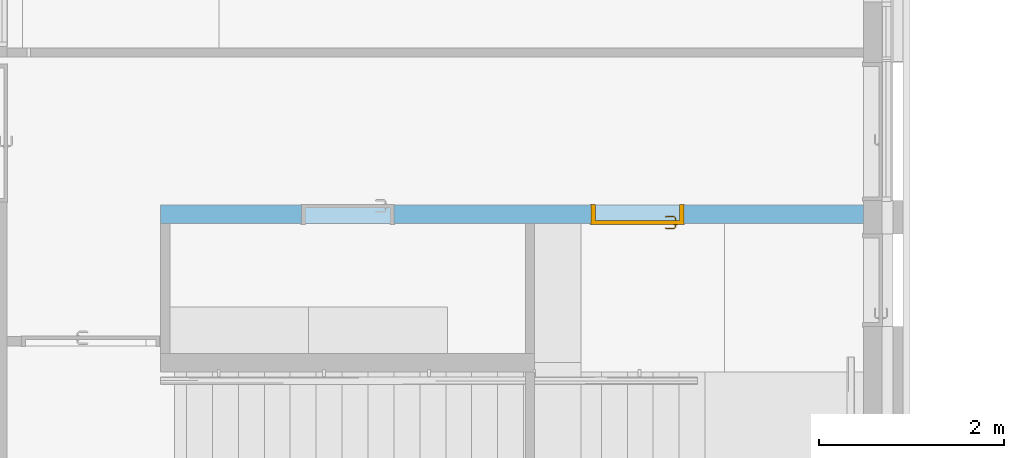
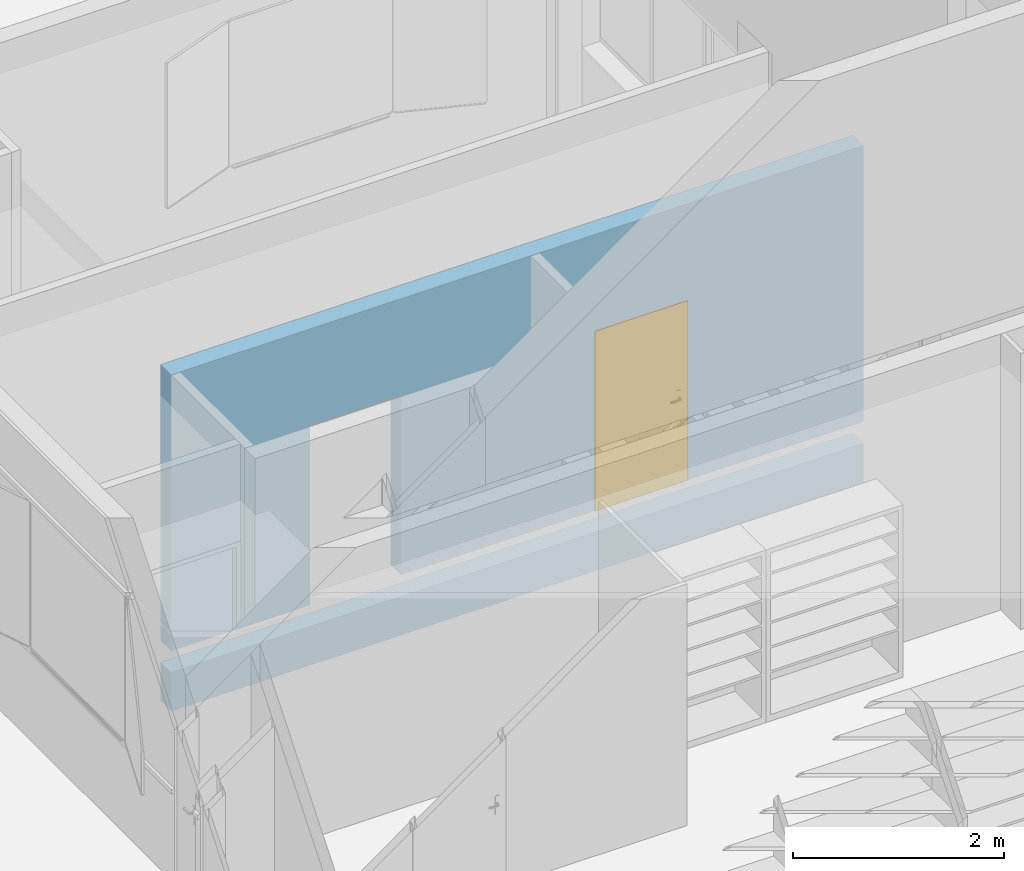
# One storey, part 78 of 137: 1 door, 2 openings, plus 1 element that does not belong to this part.
"""IFC2X3 building model written with IfcOpenShell, lengths in centimetres."""

from ifc_helpers import new_model, entity, si_unit, converted_unit, derived_unit, direction, frame, frame_2d, origin, place, context, subcontext, project, spatial, rectangle, extrude, faceted_brep, source, transform, mapped, material, material_list, layer, layer_set, type_object, type_shapes, element, fill, save


model = new_model("IFC2X3")

# Units and contexts
model_context = context("Model", 3, precision=0.001, world=origin(), true_north=direction((6.12303176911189e-17, 1.0)))
body_context = subcontext(model_context, "Body", "Model", "MODEL_VIEW")
ifc_project = project(units=[si_unit("LENGTHUNIT", "METRE", prefix="CENTI"), si_unit("AREAUNIT", "SQUARE_METRE"), si_unit("VOLUMEUNIT", "CUBIC_METRE"), converted_unit("PLANEANGLEUNIT", "DEGREE", entity("IfcRatioMeasure", 0.0174532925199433), si_unit("PLANEANGLEUNIT", "RADIAN"), dimensions=[0, 0, 0, 0, 0, 0, 0]), si_unit("MASSUNIT", "GRAM", prefix="KILO"), si_unit("TIMEUNIT", "SECOND"), si_unit("FREQUENCYUNIT", "HERTZ"), si_unit("THERMODYNAMICTEMPERATUREUNIT", "DEGREE_CELSIUS"), derived_unit("THERMALTRANSMITTANCEUNIT", [(si_unit("MASSUNIT", "GRAM", prefix="KILO"), 1), (si_unit("THERMODYNAMICTEMPERATUREUNIT", "KELVIN"), -1), (si_unit("TIMEUNIT", "SECOND"), -3)]), derived_unit("VOLUMETRICFLOWRATEUNIT", [(si_unit("LENGTHUNIT", "METRE"), 3), (si_unit("TIMEUNIT", "SECOND"), -1)]), si_unit("ELECTRICCURRENTUNIT", "AMPERE"), si_unit("ELECTRICVOLTAGEUNIT", "VOLT"), si_unit("POWERUNIT", "WATT"), si_unit("FORCEUNIT", "NEWTON", prefix="KILO"), si_unit("ILLUMINANCEUNIT", "LUX"), si_unit("LUMINOUSFLUXUNIT", "LUMEN"), si_unit("LUMINOUSINTENSITYUNIT", "CANDELA"), derived_unit("USERDEFINED", [(si_unit("MASSUNIT", "GRAM", prefix="KILO"), -1), (si_unit("LENGTHUNIT", "METRE"), -2), (si_unit("TIMEUNIT", "SECOND"), 3), (si_unit("LUMINOUSFLUXUNIT", "LUMEN"), 1)]), derived_unit("LINEARVELOCITYUNIT", [(si_unit("LENGTHUNIT", "METRE"), 1), (si_unit("TIMEUNIT", "SECOND"), -1)]), si_unit("PRESSUREUNIT", "PASCAL"), derived_unit("USERDEFINED", [(si_unit("LENGTHUNIT", "METRE"), -2), (si_unit("MASSUNIT", "GRAM", prefix="KILO"), 1), (si_unit("TIMEUNIT", "SECOND"), -2)])], contexts=[model_context])

# Site, building, storey
site_placement = place(None, frame((8.62739174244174, -249.285249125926, 0.0)))
site = spatial("IfcSite", under=ifc_project, at=site_placement, Name="Default", CompositionType="ELEMENT")
building_placement = place(site_placement, origin())
building = spatial("IfcBuilding", under=site, at=building_placement, CompositionType="ELEMENT")
storey_placement = place(building_placement, origin())
storey = spatial("IfcBuildingStorey", under=building, at=storey_placement, Name="RDC", CompositionType="ELEMENT", Elevation=-8.82465566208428e-11)

# Wall, openings, door
ifc_material_1 = material(Name="Béton, coulé sur place, gris")
ifc_layer = layer(ifc_material_1, 20.0)
ifc_layer_set = layer_set([ifc_layer], Name="Mur de base:BET 20")
wall_type = type_object("IfcWallType", Name="Mur de base:BET 20", PredefinedType="STANDARD", material=ifc_layer_set)
wall_placement = place(storey_placement, frame((3978.90482781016, 5027.98020814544, -70.0), z_axis=(0.0, 0.0, 1.0), x_axis=(-1.0, 0.0, 0.0)))
wall = element("IfcWall", 1, at=wall_placement, inside=storey, type_object=wall_type, Name="Mur de base:BET 20", ObjectType="Mur de base:BET 20", context=body_context, shape_type="Brep", body=[
    faceted_brep([(0.0, -10.0, 0.0), (759.0, -10.0, 0.0), (759.0, -10.0, 45.0), (0.0, -10.0, 45.0), (759.0, 10.0, 0.0), (0.0, 10.0, 0.0), (0.0, 10.0, 45.0), (759.0, 10.0, 45.0)], [[[0, 1, 2, 3]], [[4, 5, 6, 7]], [[1, 0, 5, 4]], [[5, 0, 3, 6]], [[3, 2, 7, 6]], [[1, 4, 7, 2]]]),
    faceted_brep([(0.0, -10.0, 390.0), (759.0, -10.0, 390.0), (759.0, 10.0, 390.0), (0.0, 10.0, 390.0), (759.0, -10.0, 70.0), (759.0, 10.0, 70.0), (607.0, -10.0, 277.499999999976), (607.0, 10.0, 277.499999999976), (607.0, 10.0, 70.0), (607.0, -10.0, 70.0), (507.0, -10.0, 277.499999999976), (507.0, 10.0, 277.499999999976), (507.0, -10.0, 70.0), (507.0, 10.0, 70.0), (294.0, -10.0, 277.499999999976), (294.0, 10.0, 277.499999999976), (294.0, 10.0, 70.0), (294.0, -10.0, 70.0), (194.0, -10.0, 277.499999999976), (194.0, 10.0, 277.499999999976), (194.0, -10.0, 70.0), (194.0, 10.0, 70.0), (0.0, -10.0, 70.0), (0.0, 10.0, 70.0)], [[[0, 1, 2, 3]], [[2, 1, 4, 5]], [[6, 7, 8, 9]], [[7, 6, 10, 11]], [[11, 10, 12, 13]], [[14, 15, 16, 17]], [[15, 14, 18, 19]], [[19, 18, 20, 21]], [[20, 22, 23, 21]], [[12, 17, 16, 13]], [[4, 9, 8, 5]], [[0, 3, 23, 22]], [[3, 2, 5, 8, 7, 11, 13, 16, 15, 19, 21, 23]], [[1, 0, 22, 20, 18, 14, 17, 12, 10, 6, 9, 4]]]),
])
opening_1_placement = place(wall_placement, frame((607.0, 10.0, 70.0)))
element("IfcOpeningElement", 2, at=opening_1_placement, cuts=wall, Name="Simple(R)_bois_mu:93 x 204 cm:1", ObjectType="Opening", context=body_context, shape_type="SweptSolid", body=[
    extrude(rectangle(XDim=207.499999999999, YDim=99.9999999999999, at=frame_2d((103.749999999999, 50.0), x_axis=(1.0, 0.0))), frame((0.0, 0.0, 0.0), z_axis=(0.0, -1.0, 0.0), x_axis=(0.0, 0.0, 1.0)), (0.0, 0.0, 1.0), 20.0),
])
opening_2_placement = place(wall_placement, frame((194.0, -10.0, 70.0)))
opening_2 = element("IfcOpeningElement", 3, at=opening_2_placement, cuts=wall, Name="Simple(R)_bois_mu:93 x 204 cm:1", ObjectType="Opening", context=body_context, shape_type="SweptSolid", body=[
    extrude(rectangle(XDim=207.499999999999, YDim=99.9999999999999, at=frame_2d((103.75, 50.0), x_axis=(1.0, 0.0))), frame((0.0, 0.0, 0.0), z_axis=(0.0, 1.0, 0.0), x_axis=(0.0, 0.0, 1.0)), (0.0, 0.0, 1.0), 20.0),
])
ifc_material_2 = material(Name="Porte - Poignée")
ifc_material_3 = material(Name="Porte - Cadre")
ifc_material_4 = material(Name="Porte - Panneau")
ifc_material_list_1 = material_list([ifc_material_2, ifc_material_3, ifc_material_4])
ifc_material_list_2 = material_list([ifc_material_2, ifc_material_3, ifc_material_4])
door_style = type_object("IfcDoorStyle", Name="93 x 204 cm", ConstructionType="NOTDEFINED", OperationType="SINGLE_SWING_LEFT", ParameterTakesPrecedence=False, Sizeable=False, material=ifc_material_list_2)
shared_shape = source(origin(), body_context, "Body", "Brep", [
    faceted_brep([(92.2025298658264, 3.69999999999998, 100.778044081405), (91.7974701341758, 3.69999999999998, 100.778044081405), (91.3999999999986, 3.69999999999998, 100.699999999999), (91.4000000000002, 3.69999999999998, 99.3000000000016), (91.7974701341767, 3.69999999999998, 99.2219559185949), (92.2025298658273, 3.69999999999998, 99.2219559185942), (92.6000000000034, 3.69999999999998, 99.2999999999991), (92.600000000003, 3.69999999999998, 100.699999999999), (91.3999999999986, 5.94852045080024, 100.699999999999), (91.3999999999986, 5.94852045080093, 99.3000000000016), (91.7974701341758, 6.1131579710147, 100.778044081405), (92.2025298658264, 6.2809392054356, 100.778044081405), (90.5838906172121, 7.89957845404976, 100.778044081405), (90.4161093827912, 7.49451872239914, 100.778044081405), (82.0793122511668, 7.49451872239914, 100.778044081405), (81.911531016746, 7.89957845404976, 100.778044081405), (81.1451046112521, 7.13315204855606, 100.778044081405), (81.4315250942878, 6.84673156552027, 100.778044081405), (92.600000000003, 6.44557672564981, 100.699999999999), (92.6000000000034, 6.44557672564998, 99.2999999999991), (92.2025298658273, 6.28093920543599, 99.2219559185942), (91.7974701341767, 6.11315797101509, 99.2219559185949), (90.4161093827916, 7.49451872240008, 99.2219559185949), (90.5838906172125, 7.8995784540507, 99.2219559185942), (81.9115310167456, 7.8995784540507, 99.2219559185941), (82.0793122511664, 7.49451872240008, 99.2219559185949), (81.4315250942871, 6.84673156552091, 99.2219559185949), (81.1451046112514, 7.13315204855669, 99.2219559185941), (90.2514718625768, 7.09704858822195, 100.699999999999), (90.2514718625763, 7.09704858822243, 99.3000000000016), (90.7485281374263, 8.29704858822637, 100.699999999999), (90.7485281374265, 8.29704858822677, 99.2999999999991), (86.247710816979, 7.09704858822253, 100.699999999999), (82.2439497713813, 7.09704858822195, 100.699999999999), (82.2439497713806, 7.09704858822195, 99.3000000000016), (86.247710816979, 7.09704858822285, 99.3000000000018), (86.2477108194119, 7.71249275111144, 100.787811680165), (85.7399422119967, 8.29704858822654, 100.699999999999), (81.7468934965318, 8.29704858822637, 100.699999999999), (86.7554791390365, 8.29704858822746, 99.2999999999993), (81.7468934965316, 8.29704858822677, 99.2999999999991), (86.2477107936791, 7.71249274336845, 99.2121883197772), (80.8640507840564, 7.41420587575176, 100.699999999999), (80.8640507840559, 7.41420587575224, 99.2999999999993), (81.7125789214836, 6.5656777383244, 99.3000000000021), (81.7125789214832, 6.56567773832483, 100.699999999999)], [[[0, 1, 2, 3, 4, 5, 6, 7]], [[8, 9, 3, 2]], [[1, 10, 8, 2]], [[1, 0, 11, 12, 13, 10]], [[14, 15, 16, 17]], [[7, 18, 11, 0]], [[18, 7, 6, 19]], [[6, 5, 20, 19]], [[5, 4, 21, 22, 23, 20]], [[24, 25, 26, 27]], [[4, 3, 9, 21]], [[28, 29, 9, 8]], [[8, 10, 13, 28]], [[18, 30, 12, 11]], [[31, 30, 18, 19]], [[19, 20, 23, 31]], [[21, 9, 29, 22]], [[29, 28, 32, 33, 34, 35]], [[36, 32, 13]], [[37, 38, 15]], [[37, 12, 30]], [[36, 12, 37]], [[14, 32, 36]], [[36, 15, 14]], [[28, 13, 32]], [[32, 14, 33]], [[12, 36, 13]], [[15, 36, 37]], [[30, 31, 39, 40, 38, 37]], [[23, 41, 39]], [[24, 39, 41]], [[39, 31, 23]], [[39, 24, 40]], [[22, 35, 41]], [[41, 23, 22]], [[41, 35, 25]], [[35, 22, 29]], [[34, 25, 35]], [[24, 41, 25]], [[17, 16, 42, 43, 27, 26, 44, 45]], [[45, 44, 34, 33]], [[33, 14, 17, 45]], [[15, 38, 42, 16]], [[43, 42, 38, 40]], [[24, 27, 43, 40]], [[34, 44, 26, 25]]]),
    faceted_brep([(91.7974701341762, -1.30000000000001, 100.778044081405), (92.2025298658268, -1.30000000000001, 100.778044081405), (92.6000000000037, -1.30000000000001, 100.699999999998), (92.6000000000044, -1.30000000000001, 99.2999999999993), (92.2025298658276, -1.30000000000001, 99.2219559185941), (91.797470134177, -1.30000000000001, 99.2219559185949), (91.3999999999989, -1.30000000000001, 99.3000000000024), (91.3999999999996, -1.30000000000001, 100.699999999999), (92.2025298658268, -3.90045754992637, 100.778044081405), (92.6000000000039, -4.06509507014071, 100.699999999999), (91.7974701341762, -3.73267631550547, 100.778044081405), (90.4298602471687, -5.10028620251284, 100.778044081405), (90.5976414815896, -5.50534593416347, 100.778044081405), (81.9142453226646, -5.50534593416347, 100.778044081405), (82.0820265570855, -5.10028620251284, 100.778044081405), (81.4342394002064, -4.4524990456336, 100.778044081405), (81.1478189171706, -4.73891952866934, 100.778044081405), (91.3999999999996, -3.56803879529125, 100.699999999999), (91.3999999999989, -3.56803879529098, 99.3000000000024), (91.797470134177, -3.7326763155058, 99.2219559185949), (92.2025298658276, -3.9004575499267, 99.2219559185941), (90.5976414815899, -5.50534593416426, 99.2219559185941), (90.429860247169, -5.10028620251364, 99.2219559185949), (82.0820265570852, -5.10028620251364, 99.2219559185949), (81.9142453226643, -5.50534593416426, 99.2219559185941), (81.14781891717, -4.73891952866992, 99.2219559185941), (81.4342394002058, -4.45249904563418, 99.2219559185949), (92.6000000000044, -4.06509507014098, 99.2999999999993), (90.762279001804, -5.90281606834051, 100.699999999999), (90.2652227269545, -4.70281606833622, 100.699999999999), (90.2652227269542, -4.70281606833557, 99.3000000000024), (90.7622790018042, -5.90281606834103, 99.2999999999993), (86.2559433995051, -5.31828027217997, 100.787811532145), (86.769230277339, -5.90281606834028, 100.699999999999), (81.7496078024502, -5.90281606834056, 100.699999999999), (86.255943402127, -4.70281606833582, 100.699999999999), (82.2466640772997, -4.70281606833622, 100.699999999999), (86.2559436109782, -4.70281606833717, 99.3000000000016), (82.2466640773, -4.70281606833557, 99.3000000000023), (86.2559434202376, -5.31828027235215, 99.2121884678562), (85.7426572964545, -5.90281606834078, 99.2999999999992), (81.74960780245, -5.90281606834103, 99.2999999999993), (81.7152932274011, -4.17144521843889, 99.3000000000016), (80.8667650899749, -5.01997335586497, 99.2999999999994), (80.8667650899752, -5.01997335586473, 100.699999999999), (81.7152932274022, -4.17144521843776, 100.699999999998)], [[[0, 1, 2, 3, 4, 5, 6, 7]], [[2, 1, 8, 9]], [[1, 0, 10, 11, 12, 8]], [[13, 14, 15, 16]], [[0, 7, 17, 10]], [[18, 17, 7, 6]], [[5, 19, 18, 6]], [[5, 4, 20, 21, 22, 19]], [[23, 24, 25, 26]], [[3, 27, 20, 4]], [[9, 27, 3, 2]], [[9, 8, 12, 28]], [[10, 17, 29, 11]], [[30, 29, 17, 18]], [[18, 19, 22, 30]], [[20, 27, 31, 21]], [[28, 31, 27, 9]], [[12, 32, 33]], [[13, 33, 32]], [[33, 28, 12]], [[33, 13, 34]], [[11, 35, 32]], [[32, 12, 11]], [[32, 35, 14]], [[35, 11, 29]], [[36, 14, 35]], [[13, 32, 14]], [[29, 30, 37, 38, 36, 35]], [[39, 37, 22]], [[40, 41, 24]], [[40, 21, 31]], [[39, 21, 40]], [[23, 37, 39]], [[39, 24, 23]], [[30, 22, 37]], [[37, 23, 38]], [[21, 39, 22]], [[24, 39, 40]], [[31, 28, 33, 34, 41, 40]], [[42, 26, 25, 43, 44, 16, 15, 45]], [[13, 16, 44, 34]], [[36, 45, 15, 14]], [[42, 45, 36, 38]], [[38, 23, 26, 42]], [[24, 41, 43, 25]], [[44, 43, 41, 34]]]),
    faceted_brep([(92.0, 3.19999999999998, 86.4641016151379), (93.0352761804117, 3.19999999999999, 86.6003983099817), (94.0, 3.19999999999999, 87.0), (94.0, 3.19999999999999, 108.0), (93.0352761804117, 3.19999999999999, 108.399601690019), (92.0, 3.19999999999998, 108.535898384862), (90.9647238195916, 3.19999999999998, 108.399601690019), (90.0, 3.19999999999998, 108.0), (90.0, 3.19999999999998, 87.0), (90.9647238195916, 3.19999999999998, 86.6003983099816), (92.0, 3.69999999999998, 108.535898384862), (93.0352761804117, 3.69999999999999, 108.399601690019), (94.0, 3.69999999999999, 108.0), (94.0, 3.69999999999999, 87.0), (93.0352761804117, 3.69999999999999, 86.6003983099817), (92.0, 3.69999999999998, 86.4641016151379), (90.9647238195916, 3.69999999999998, 86.6003983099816), (90.0, 3.69999999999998, 87.0), (90.0, 3.69999999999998, 108.0), (90.9647238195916, 3.69999999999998, 108.399601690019)], [[[0, 1, 2, 3, 4, 5, 6, 7, 8, 9]], [[10, 11, 12, 13, 14, 15, 16, 17, 18, 19]], [[6, 19, 18, 7]], [[5, 10, 19, 6]], [[4, 11, 10, 5]], [[4, 3, 12, 11]], [[12, 3, 2, 13]], [[1, 14, 13, 2]], [[0, 15, 14, 1]], [[9, 16, 15, 0]], [[9, 8, 17, 16]], [[17, 8, 7, 18]]]),
    faceted_brep([(92.0, -1.30000000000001, 86.4641016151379), (93.0352761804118, -1.30000000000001, 86.6003983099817), (94.0, -1.30000000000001, 87.0), (94.0, -1.30000000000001, 108.0), (93.0352761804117, -1.30000000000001, 108.399601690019), (92.0, -1.30000000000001, 108.535898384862), (90.9647238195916, -1.30000000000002, 108.399601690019), (90.0, -1.30000000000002, 108.0), (90.0, -1.30000000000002, 87.0), (90.9647238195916, -1.30000000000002, 86.6003983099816), (94.0, -0.800000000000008, 108.0), (94.0, -0.800000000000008, 87.0), (93.0352761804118, -0.800000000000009, 86.6003983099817), (92.0, -0.800000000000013, 86.4641016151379), (90.9647238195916, -0.800000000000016, 86.6003983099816), (90.0, -0.800000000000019, 87.0), (90.0, -0.800000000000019, 108.0), (90.9647238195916, -0.800000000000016, 108.399601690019), (92.0, -0.800000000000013, 108.535898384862), (93.0352761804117, -0.800000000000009, 108.399601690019)], [[[0, 1, 2, 3, 4, 5, 6, 7, 8, 9]], [[10, 11, 12, 13, 14, 15, 16, 17, 18, 19]], [[1, 12, 11, 2]], [[0, 13, 12, 1]], [[9, 14, 13, 0]], [[9, 8, 15, 14]], [[15, 8, 7, 16]], [[6, 17, 16, 7]], [[5, 18, 17, 6]], [[4, 19, 18, 5]], [[4, 3, 10, 19]], [[10, 3, 2, 11]]]),
    faceted_brep([(101.0, 0.0, 0.0), (102.0, 0.0, 0.0), (102.0, -0.799999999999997, 0.0), (97.5000000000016, -0.799999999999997, 0.0), (97.5000000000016, 3.2, 0.0), (96.5000000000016, 3.2, 0.0), (96.5000000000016, 20.8000000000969, 0.0), (102.0, 20.8000000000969, 0.0), (102.0, 20.0, 0.0), (101.0, 20.0, 0.0), (101.0, 20.0, 207.499999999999), (101.0, 0.0, 207.499999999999), (102.0, 20.0, 208.499999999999), (0.0, 20.0, 208.499999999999), (0.0, 20.0, 0.0), (1.0, 20.0, 0.0), (1.0, 20.0, 207.499999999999), (102.0, 20.8000000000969, 208.499999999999), (96.5000000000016, 20.8000000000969, 203.0), (5.50000000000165, 20.8000000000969, 203.0), (5.50000000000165, 20.8000000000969, 0.0), (0.0, 20.8000000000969, 0.0), (0.0, 20.8000000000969, 208.499999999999), (96.5000000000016, 3.2, 203.0), (97.5000000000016, 3.2, 204.0), (4.50000000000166, 3.2, 204.0), (4.50000000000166, 3.2, 0.0), (5.50000000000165, 3.2, 0.0), (5.50000000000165, 3.2, 203.0), (97.5000000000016, -0.799999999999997, 204.0), (102.0, -0.799999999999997, 208.499999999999), (0.0, -0.799999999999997, 208.499999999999), (0.0, -0.799999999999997, 0.0), (4.50000000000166, -0.799999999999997, 0.0), (4.50000000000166, -0.799999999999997, 204.0), (102.0, 0.0, 208.499999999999), (1.0, 0.0, 207.499999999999), (1.0, 0.0, 0.0), (0.0, 0.0, 0.0), (0.0, 0.0, 208.499999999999)], [[[0, 1, 2, 3, 4, 5, 6, 7, 8, 9]], [[9, 10, 11, 0]], [[8, 12, 13, 14, 15, 16, 10, 9]], [[7, 17, 12, 8]], [[6, 18, 19, 20, 21, 22, 17, 7]], [[5, 23, 18, 6]], [[4, 24, 25, 26, 27, 28, 23, 5]], [[3, 29, 24, 4]], [[2, 30, 31, 32, 33, 34, 29, 3]], [[1, 35, 30, 2]], [[0, 11, 36, 37, 38, 39, 35, 1]], [[16, 15, 37, 36]], [[37, 15, 14, 21, 20, 27, 26, 33, 32, 38]], [[22, 21, 14, 13]], [[28, 27, 20, 19]], [[34, 33, 26, 25]], [[39, 38, 32, 31]], [[10, 16, 36, 11]], [[17, 22, 13, 12]], [[23, 28, 19, 18]], [[29, 34, 25, 24]], [[35, 39, 31, 30]]]),
    faceted_brep([(97.5000000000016, -0.799999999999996, 204.0), (4.50000000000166, -0.799999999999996, 204.0), (4.50000000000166, -0.799999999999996, 0.0), (97.5000000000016, -0.799999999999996, 0.0), (97.5000000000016, 3.2, 204.0), (97.5000000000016, 3.2, 0.0), (4.50000000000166, 3.2, 0.0), (4.50000000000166, 3.2, 204.0)], [[[0, 1, 2, 3]], [[4, 5, 6, 7]], [[3, 5, 4, 0]], [[2, 6, 5, 3]], [[1, 7, 6, 2]], [[0, 4, 7, 1]]]),
])
type_shapes(door_style, [shared_shape])
door_placement = place(opening_2_placement, frame((101.0, 20.0, 0.0), z_axis=(0.0, 0.0, 1.0), x_axis=(-1.0, 0.0, 0.0)))
door = element("IfcDoor", 4, at=door_placement, inside=storey, type_object=door_style, material=ifc_material_list_1, Name="Simple(R)_bois_mu:93 x 204 cm", ObjectType="93 x 204 cm", OverallHeight=207.499999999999, OverallWidth=99.9999999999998, context=body_context, shape_type="MappedRepresentation", body=[
    mapped(shared_shape, transform((0.0, 0.0, 0.0), scale=1.0)),
])
fill(opening_2, door)

save(model, "model.ifc")
